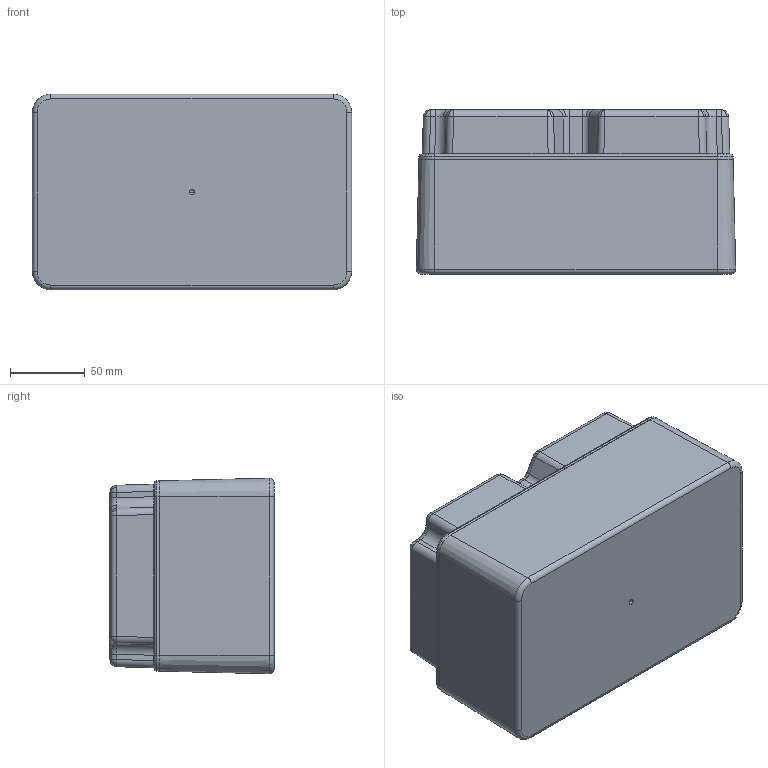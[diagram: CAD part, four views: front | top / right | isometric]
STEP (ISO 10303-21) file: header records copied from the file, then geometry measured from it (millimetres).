
FILE_DESCRIPTION (( 'STEP AP214' ), '1' );
FILE_NAME ('DC-85PMMRG_ASS''Y.STEP', '2010-08-23T12:27:22', ( '' ), ( '' ), 'SwSTEP 2.0', 'SolidWorks 2010', '' );
FILE_SCHEMA (( 'AUTOMOTIVE_DESIGN' ));
Length unit declared in the file: inch
Products named in the file (6): DC-58B_DC-58BPMBY; DC-85CMB_DC-85CMBR; SCREWS-DC2-BR; GASKET; O-RING; DC-85PMMRG_ASS''Y
Assembly tree (15 placements, depth 2):
  DC-85PMMRG_ASS''Y
    O-RING  x6
    DC-85CMB_DC-85CMBR
    SCREWS-DC2-BR  x6
    DC-58B_DC-58BPMBY
    GASKET
Bounding box: 213.36 x 109.65 x 130.68 mm (x, y, z)
Volume: 457617.9 mm3; surface area: 268559.9 mm2
Topology: 21 solids, 21 shells, 992 faces, 2332 edges, 1446 vertices
Faces by surface type: plane 284, cylinder 280, cone 192, bspline 160, torus 60, sphere 16
Entity records: 28067 total; most frequent: CARTESIAN_POINT 8153, ORIENTED_EDGE 3860, DIRECTION 3818, EDGE_CURVE 1930, AXIS2_PLACEMENT_3D 1557, VERTEX_POINT 1196, EDGE_LOOP 946, CIRCLE 862
